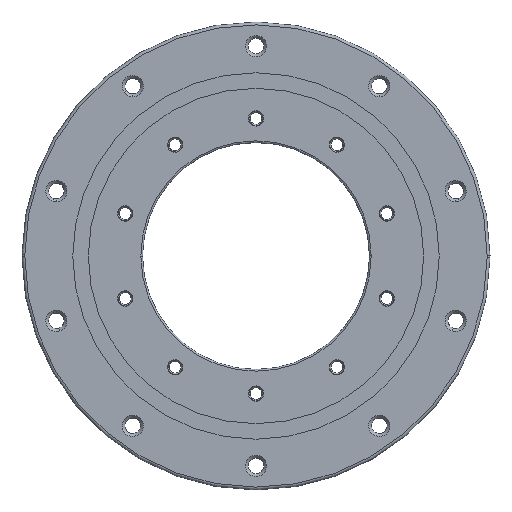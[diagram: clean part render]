
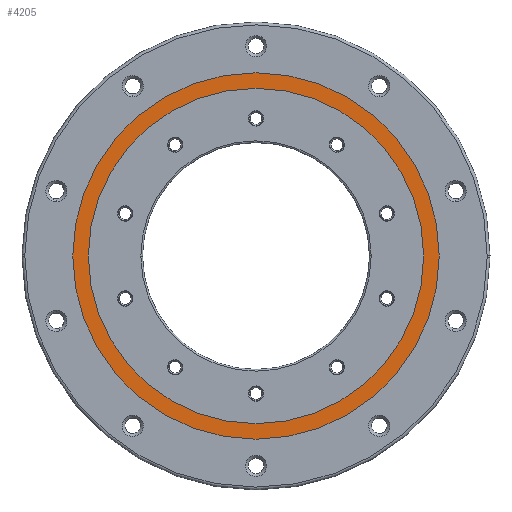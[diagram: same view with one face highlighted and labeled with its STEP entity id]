
A CAD part, front view. The second image highlights one B-rep face of the part: STEP entity #4205.
In plain terms, the highlighted planar face has unit normal (0, -1, 0).
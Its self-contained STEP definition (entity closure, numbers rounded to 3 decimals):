
#2463=VERTEX_POINT('',#6548);
#2877=VERTEX_POINT('',#7021);
#3985=EDGE_CURVE('',#2463,#2877,#8247,.T.);
#4143=VERTEX_POINT('',#8418);
#4205=ADVANCED_FACE('',(#8487,#8488),#8489,.F.);
#4987=VERTEX_POINT('',#9377);
#5179=EDGE_CURVE('',#2877,#2463,#9591,.T.);
#5715=EDGE_CURVE('',#4987,#4143,#10186,.T.);
#6099=EDGE_CURVE('',#4143,#4987,#10627,.T.);
#6548=CARTESIAN_POINT('',(-64.6,0.0,0.));
#7021=CARTESIAN_POINT('',(64.6,0.0,0.0));
#8247=CIRCLE('',#13390,64.6);
#8418=CARTESIAN_POINT('',(-59.1,0.0,0.0));
#8487=FACE_OUTER_BOUND('',#13702,.T.);
#8488=FACE_BOUND('',#13703,.T.);
#8489=PLANE('',#13704);
#9377=CARTESIAN_POINT('',(59.1,0.0,0.0));
#9591=CIRCLE('',#15125,64.6);
#10186=CIRCLE('',#15896,59.1);
#10627=CIRCLE('',#16458,59.1);
#13390=AXIS2_PLACEMENT_3D('',#19160,#19161,#19162);
#13702=EDGE_LOOP('',(#19474,#19475));
#13703=EDGE_LOOP('',(#19476,#19477));
#13704=AXIS2_PLACEMENT_3D('',#19478,#19479,#19480);
#15125=AXIS2_PLACEMENT_3D('',#20948,#20949,#20950);
#15896=AXIS2_PLACEMENT_3D('',#21703,#21704,#21705);
#16458=AXIS2_PLACEMENT_3D('',#22275,#22276,#22277);
#19160=CARTESIAN_POINT('',(0.0,0.0,0.0));
#19161=DIRECTION('',(0.0,1.0,0.0));
#19162=DIRECTION('',(-1.0,0.0,0.0));
#19474=ORIENTED_EDGE('',*,*,#3985,.F.);
#19475=ORIENTED_EDGE('',*,*,#5179,.F.);
#19476=ORIENTED_EDGE('',*,*,#6099,.F.);
#19477=ORIENTED_EDGE('',*,*,#5715,.F.);
#19478=CARTESIAN_POINT('',(0.0,0.0,0.0));
#19479=DIRECTION('',(0.0,1.0,0.0));
#19480=DIRECTION('',(1.0,0.0,-0.0));
#20948=CARTESIAN_POINT('',(0.0,0.0,0.0));
#20949=DIRECTION('',(-0.0,1.0,0.0));
#20950=DIRECTION('',(1.0,0.0,0.0));
#21703=CARTESIAN_POINT('',(0.0,0.0,0.0));
#21704=DIRECTION('',(0.0,-1.0,0.0));
#21705=DIRECTION('',(1.0,0.0,0.0));
#22275=CARTESIAN_POINT('',(0.0,0.0,0.0));
#22276=DIRECTION('',(0.0,-1.0,0.0));
#22277=DIRECTION('',(-1.0,0.0,0.0));
